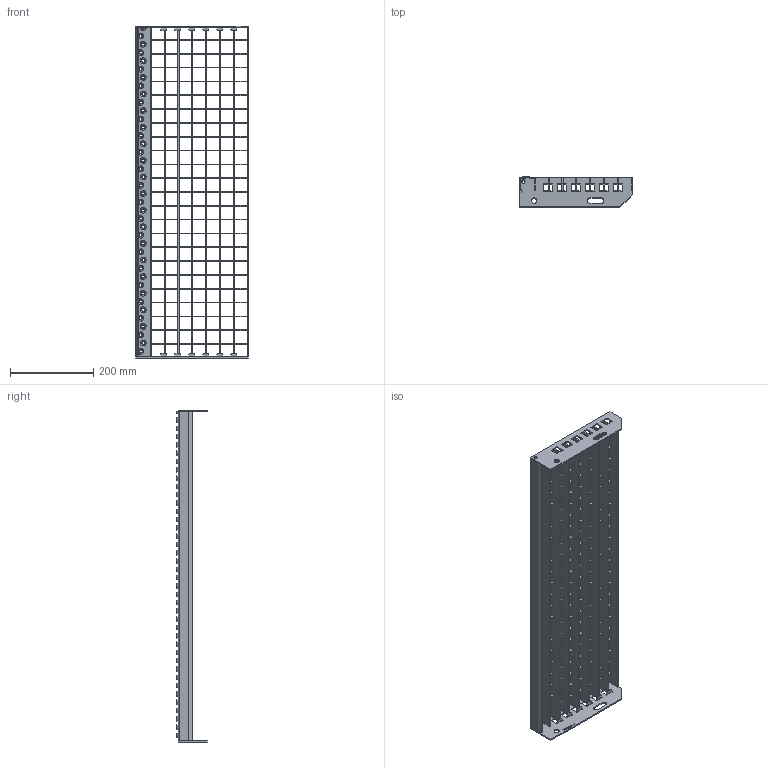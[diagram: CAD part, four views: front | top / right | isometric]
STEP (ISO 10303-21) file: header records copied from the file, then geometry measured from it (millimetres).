
FILE_DESCRIPTION(/* description */ ('','CAx-IF Rec.Pracs.---Representation and Presentation of Product Manufacturing Information (PMI)---3.8---2014-02-18'),/* implementation_level */ '2;1');
FILE_NAME(/* name */ 'C:\Users\phaverkotte\Desktop\Lager STEP\P-Stufen\PX3 330-33-3\PX3 330-33-3 800mm x 270mm.stp',/* time_stamp */ '2018-03-24T10:11:37+01:00',/* author */ ('phaverkotte'),/* organization */ (''),/* preprocessor_version */ 'ST-DEVELOPER v16.13',/* originating_system */ 'Autodesk Inventor 2018',/* authorisation */ '');
FILE_SCHEMA (('AP242_MANAGED_MODEL_BASED_3D_ENGINEERING_MIM_LF { 1 0 10303 442 1 1 4 }'));
Length unit declared in the file: millimetre
Products named in the file (8): Schodišťový stupeň přím
ý lisovaný; Seitenplatte ausgeklinkt links; Seitenplatte 240 ausgeklinkt extern rechts; Schod nášlap; P Rošt schodu; Querstab; P Nosný pás; Hinteres Flach
Assembly tree (35 placements, depth 3):
  Schodišťový stupeň přím
ý lisovaný
    Seitenplatte ausgeklinkt links
    Seitenplatte 240 ausgeklinkt extern rechts
    Schod nášlap
    P Rošt schodu
      Querstab  x23
      P Nosný pás  x7
      Hinteres Flach
Bounding box: 271.31 x 72.75 x 800 mm (x, y, z)
Volume: 836048.8 mm3; surface area: 707828.6 mm2
Topology: 34 solids, 34 shells, 3002 faces, 8641 edges, 5724 vertices
Faces by surface type: plane 1913, cylinder 905, cone 120, torus 40, bspline 24
Full cylindrical faces by diameter (mm): 8 x2, 13 x2
Entity records: 31121 total; most frequent: CARTESIAN_POINT 8824, DIRECTION 4498, ORIENTED_EDGE 4348, EDGE_CURVE 2174, LINE 1520, VECTOR 1520, VERTEX_POINT 1493, AXIS2_PLACEMENT_3D 1489
